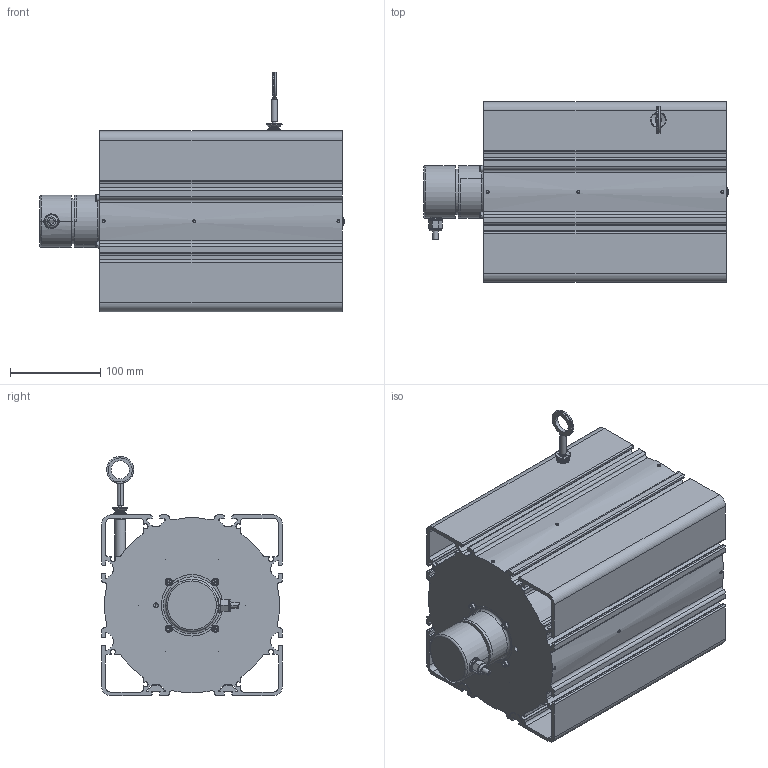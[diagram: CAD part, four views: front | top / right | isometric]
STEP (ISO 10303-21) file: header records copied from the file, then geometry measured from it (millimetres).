
FILE_DESCRIPTION((''),'2;1');
FILE_NAME('','2007-05-29T',(''),(''),'PRO/ENGINEER BY PARAMETRIC TECHNOLOGY CORPORATION, 2003250','PRO/ENGINEER BY PARAMETRIC TECHNOLOGY CORPORATION, 2003250','');
FILE_SCHEMA(('CONFIG_CONTROL_DESIGN'));
Length unit declared in the file: millimetre
Bounding box: 337.17 x 200 x 264.95 mm (x, y, z)
Volume: 1987881.3 mm3; surface area: 787952.1 mm2
Topology: 1 solids, 6 shells, 891 faces, 2362 edges, 1520 vertices
Faces by surface type: cylinder 400, plane 338, cone 102, torus 46, bspline 2, sphere 2, extrusion 1
Entity records: 29229 total; most frequent: CARTESIAN_POINT 6552, DIRECTION 4945, ORIENTED_EDGE 4656, EDGE_CURVE 2328, AXIS2_PLACEMENT_3D 1902, VERTEX_POINT 1520, VECTOR 1141, LINE 1140
